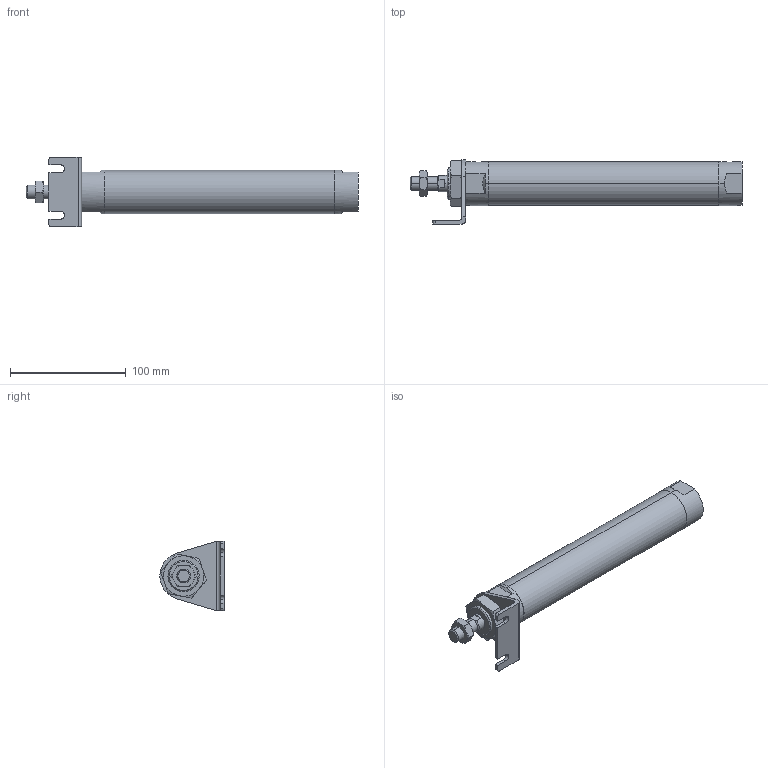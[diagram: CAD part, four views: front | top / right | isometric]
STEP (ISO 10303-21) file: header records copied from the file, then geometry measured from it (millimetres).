
FILE_DESCRIPTION (( 'STEP AP203' ), '1' );
FILE_NAME ('JGND2-32-150-L.STEP', '2016-08-04T02:54:55', ( '' ), ( '' ), 'SwSTEP 2.0', 'SolidWorks 2014', '' );
FILE_SCHEMA (( 'CONFIG_CONTROL_DESIGN' ));
Length unit declared in the file: millimetre
Products named in the file (5): J#2-32-150(P); J#2-32-L; JGND2-32-150-L
Assembly tree (4 placements, depth 2):
  JGND2-32-150-L
    J#2-32-150(P)
    (unnamed)
    (unnamed)
    J#2-32-L
Bounding box: 287 x 55.5 x 60 mm (x, y, z)
Volume: 292797.7 mm3; surface area: 46028.7 mm2
Topology: 4 solids, 4 shells, 116 faces, 273 edges, 167 vertices
Faces by surface type: plane 47, cylinder 32, torus 24, cone 13
Entity records: 4285 total; most frequent: CARTESIAN_POINT 1166, DIRECTION 548, ORIENTED_EDGE 538, EDGE_CURVE 269, AXIS2_PLACEMENT_3D 219, VERTEX_POINT 167, EDGE_LOOP 128, ADVANCED_FACE 116
